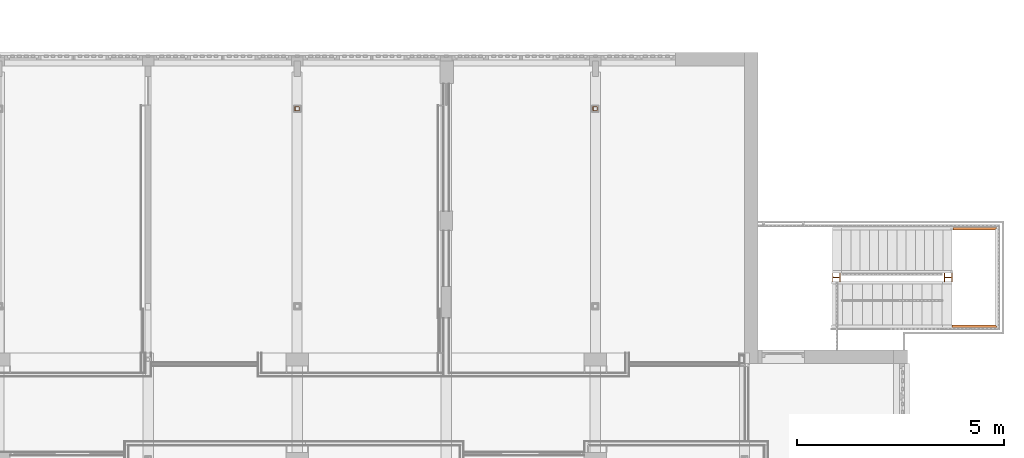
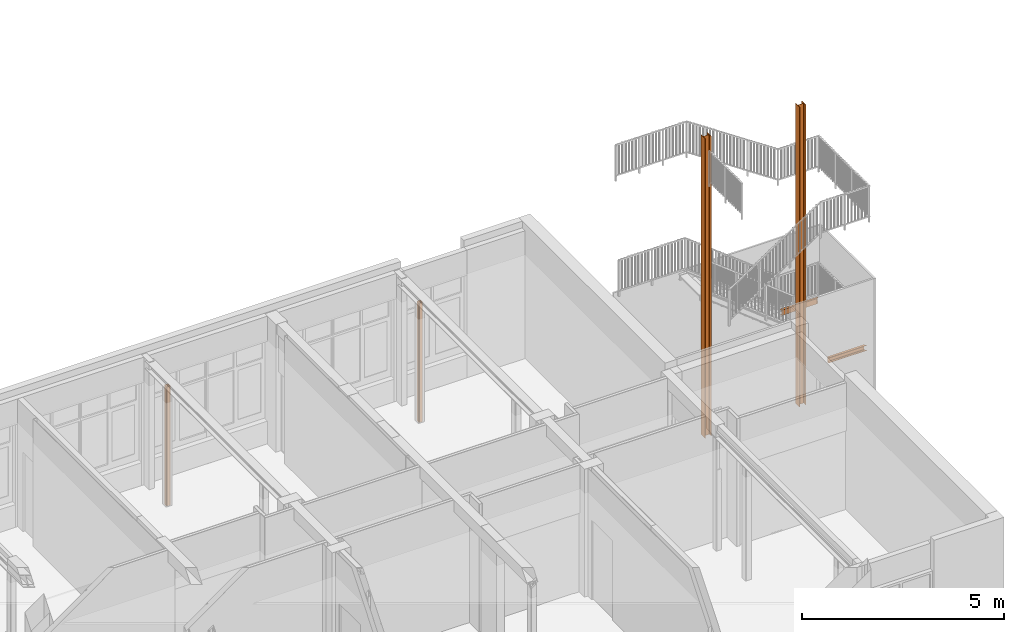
# One storey, part 125 of 135: 6 proxies.
"""IFC2X3 building model written with IfcOpenShell, lengths in millimetres."""

import ifcopenshell
import ifcopenshell.guid

model = None  # the IFC model being written
_history = None  # IfcOwnerHistory: only IFC2X3 demands one
_inside = {}  # id of a spatial element -> (the spatial element, [elements in it])
_under = {}  # id of a project, library or spatial element -> (it, [spatial elements below it])
_declared = {}  # id of a project -> (the project, [libraries it declares])
_typed = {}  # id of a type object -> (the type object, [elements of that type])
_made_of = {}  # id of a material, layer set ... -> (it, [elements and type objects made of it])


def new_model(schema):
    """Start an empty IFC model of exactly this schema.

    Asked for "IFC4X3", IfcOpenShell would pick the latest addendum, in which some entities
    have other attributes; the version numbers below select the first issue.
    IFC2X3 requires an IfcOwnerHistory on every rooted entity: one is made here for all.
    """
    global model, _history
    if schema == "IFC4X3":
        model = ifcopenshell.file(schema_version=(4, 3, 0, 0))
    else:
        model = ifcopenshell.file(schema=schema)
    _inside.clear()
    _under.clear()
    _declared.clear()
    _typed.clear()
    _made_of.clear()
    _history = None
    if model.schema == "IFC2X3":
        org = make("IfcOrganization", Name="unknown")
        user = make(
            "IfcPersonAndOrganization",
            ThePerson=make("IfcPerson", FamilyName="unknown"),
            TheOrganization=org,
        )
        app = make(
            "IfcApplication",
            ApplicationDeveloper=org,
            Version="unknown",
            ApplicationFullName="unknown",
            ApplicationIdentifier="unknown",
        )
        _history = make(
            "IfcOwnerHistory",
            OwningUser=user,
            OwningApplication=app,
            ChangeAction="ADDED",
            CreationDate=0,
        )
    return model


def make(cls, **values):
    """One entity of the class cls with the attributes given. An attribute that is None is left unset."""
    return model.create_entity(
        cls, **{name: value for name, value in values.items() if value is not None}
    )


def entity(cls, *values):
    """Any entity or typed value of the class cls, its attributes in the order of the schema. None: left unset."""
    e = model.create_entity(cls)
    for i, value in enumerate(values):
        if value is not None:
            e[i] = value
    return e


def rooted(cls, **values):
    """An entity with a GlobalId (a new one), such as an element, a storey or a relation."""
    return make(cls, GlobalId=ifcopenshell.guid.new(), OwnerHistory=_history, **values)


def si_unit(unit_type, name, prefix=None):
    """IfcSIUnit, for example si_unit("LENGTHUNIT", "METRE", prefix="MILLI")."""
    return make("IfcSIUnit", UnitType=unit_type, Prefix=prefix, Name=name)


def converted_unit(unit_type, name, factor, base, dimensions=None, offset=None):
    """IfcConversionBasedUnit, such as the inch: factor (a typed value) times the base unit."""
    return make(
        "IfcConversionBasedUnit"
        if offset is None
        else "IfcConversionBasedUnitWithOffset",
        ConversionOffset=offset,
        Dimensions=None
        if dimensions is None
        else entity("IfcDimensionalExponents", *dimensions),
        UnitType=unit_type,
        Name=name,
        ConversionFactor=make(
            "IfcMeasureWithUnit", ValueComponent=factor, UnitComponent=base
        ),
    )


def derived_unit(unit_type, elements):
    """IfcDerivedUnit: a product of units, each with its exponent."""
    return make(
        "IfcDerivedUnit",
        Elements=[
            make("IfcDerivedUnitElement", Unit=unit, Exponent=power)
            for unit, power in elements
        ],
        UnitType=unit_type,
    )


def money_unit(currency):
    """IfcMonetaryUnit."""
    return make("IfcMonetaryUnit", Currency=currency)


def assignment(units):
    """IfcUnitAssignment: the units of a project."""
    return None if units is None else make("IfcUnitAssignment", Units=units)


def point(xyz):
    """IfcCartesianPoint."""
    return None if xyz is None else make("IfcCartesianPoint", Coordinates=xyz)


def direction(xyz):
    """IfcDirection."""
    return None if xyz is None else make("IfcDirection", DirectionRatios=xyz)


def frame(location, z_axis=None, x_axis=None):
    """IfcAxis2Placement3D, a coordinate frame: its origin and axes. An axis left out is left unset."""
    return make(
        "IfcAxis2Placement3D",
        Location=point(location),
        Axis=direction(z_axis),
        RefDirection=direction(x_axis),
    )


def origin_with_axes():
    """The frame at (0, 0, 0) with the z axis (0, 0, 1) and the x axis (1, 0, 0) written out."""
    return frame((0.0, 0.0, 0.0), z_axis=(0.0, 0.0, 1.0), x_axis=(1.0, 0.0, 0.0))


def place(relative_to, where):
    """IfcLocalPlacement: puts the frame where relative to a parent placement (None: the world)."""
    return make(
        "IfcLocalPlacement", PlacementRelTo=relative_to, RelativePlacement=where
    )


def context(
    kind, dimensions, precision=None, world=None, true_north=None, identifier=None
):
    """IfcGeometricRepresentationContext, for example the 3D "Model" context."""
    return make(
        "IfcGeometricRepresentationContext",
        ContextIdentifier=identifier,
        ContextType=kind,
        CoordinateSpaceDimension=dimensions,
        Precision=precision,
        WorldCoordinateSystem=world,
        TrueNorth=true_north,
    )


def subcontext(parent, identifier, kind, view, scale=None):
    """IfcGeometricRepresentationSubContext, for example "Body" below "Model"."""
    return make(
        "IfcGeometricRepresentationSubContext",
        ContextIdentifier=identifier,
        ContextType=kind,
        ParentContext=parent,
        TargetScale=scale,
        TargetView=view,
    )


def project(units=None, contexts=None):
    """IfcProject with its units and contexts."""
    return rooted(
        "IfcProject",
        Name="project",
        RepresentationContexts=contexts,
        UnitsInContext=assignment(units),
    )


def spatial(cls, under=None, at=None, **own):
    """A site, building, storey or space (cls), placed at a placement, below another one or the project."""
    s = rooted(cls, ObjectPlacement=at, **own)
    if under is not None:
        _under.setdefault(under.id(), (under, []))[1].append(s)
    return s


def faces_of(points, faces, orient=None, outer=None):
    """IfcFace entities. A face is a list of loops; a loop is a list of indices into points, from 0.

    orient and outer hold one flag for each loop. By default every Orientation is true, the
    first loop of a face is its IfcFaceOuterBound and the others are IfcFaceBound.
    """
    made = []
    for i, loops in enumerate(faces):
        bounds = []
        for j, loop in enumerate(loops):
            is_outer = j == 0 if outer is None else outer[i][j]
            bounds.append(
                make(
                    "IfcFaceOuterBound" if is_outer else "IfcFaceBound",
                    Bound=make("IfcPolyLoop", Polygon=[points[k] for k in loop]),
                    Orientation=True if orient is None else orient[i][j],
                )
            )
        made.append(make("IfcFace", Bounds=bounds))
    return made


def faceted_brep(points, faces, orient=None, outer=None, voids=None):
    """IfcFacetedBrep: a solid bounded by flat faces; with voids (closed shells), ...WithVoids."""
    shared = [point(p) for p in points]
    hull = make("IfcClosedShell", CfsFaces=faces_of(shared, faces, orient, outer))
    if voids is None:
        return make("IfcFacetedBrep", Outer=hull)
    return make(
        "IfcFacetedBrepWithVoids",
        Outer=hull,
        Voids=[
            make(cls, CfsFaces=faces_of(shared, fs, o, b)) for cls, fs, o, b in voids
        ],
    )


def shape(context_of_items, identifier, shape_type, items):
    """IfcShapeRepresentation: the items that make up one representation, for example the "Body"."""
    return make(
        "IfcShapeRepresentation",
        ContextOfItems=context_of_items,
        RepresentationIdentifier=identifier,
        RepresentationType=shape_type,
        Items=items,
    )


def source(mapping_origin, context_of_items, identifier, shape_type, items):
    """IfcRepresentationMap: a shape defined once, which mapped items show again and again."""
    return make(
        "IfcRepresentationMap",
        MappingOrigin=mapping_origin,
        MappedRepresentation=shape(context_of_items, identifier, shape_type, items),
    )


def transform(
    local_origin,
    x_axis=None,
    y_axis=None,
    z_axis=None,
    scale=None,
    scale2=None,
    scale3=None,
    uniform=True,
):
    """IfcCartesianTransformationOperator3D, or its non-uniform kind. x_axis, y_axis, z_axis: its Axis1, 2, 3."""
    if uniform:
        return make(
            "IfcCartesianTransformationOperator3D",
            Axis1=direction(x_axis),
            Axis2=direction(y_axis),
            LocalOrigin=point(local_origin),
            Scale=scale,
            Axis3=direction(z_axis),
        )
    return make(
        "IfcCartesianTransformationOperator3DnonUniform",
        Axis1=direction(x_axis),
        Axis2=direction(y_axis),
        LocalOrigin=point(local_origin),
        Scale=scale,
        Axis3=direction(z_axis),
        Scale2=scale2,
        Scale3=scale3,
    )


def mapped(mapping_source, mapping_target):
    """IfcMappedItem: shows the shape of a source again, moved by a transform."""
    return make(
        "IfcMappedItem", MappingSource=mapping_source, MappingTarget=mapping_target
    )


def material(Name=None, Category=None):
    """IfcMaterial."""
    return make("IfcMaterial", Name=Name, Category=Category)


def made_of(thing, what):
    """Note that an element or type object is made of a material, layer set ...; save() writes the relation."""
    if what is not None:
        _made_of.setdefault(what.id(), (what, []))[1].append(thing)
    return thing


def type_object(cls, material=None, **own):
    """A type object (cls), such as IfcWallType, which elements share."""
    return made_of(rooted(cls, **own), material)


def type_shapes(of_type, sources):
    """Give a type object the sources (RepresentationMaps) that its elements show as mapped items."""
    of_type.RepresentationMaps = sources


def element(
    cls,
    number,
    at=None,
    inside=None,
    cuts=None,
    type_object=None,
    material=None,
    context=None,
    identifier="Body",
    shape_type=None,
    held_by="IfcProductDefinitionShape",
    body=None,
    shapes=None,
    **own,
):
    """One element of the class cls, such as IfcWall. Its Tag is "e" and its number.

    at: its placement. inside: the storey or other place that contains it. cuts: it is an
    opening in that element (IfcRelVoidsElement). A single representation is given by context,
    identifier, shape_type and body (its items); several are given by shapes. held_by: the class
    of the entity that holds the representations. save() writes the other relations.
    """
    e = rooted(cls, Tag="e%d" % number, ObjectPlacement=at, **own)
    if body is not None:
        shapes = [shape(context, identifier, shape_type, body)]
    if shapes is not None:
        e.Representation = make(held_by, Representations=shapes)
    if inside is not None:
        _inside.setdefault(inside.id(), (inside, []))[1].append(e)
    if cuts is not None:
        rooted(
            "IfcRelVoidsElement", RelatingBuildingElement=cuts, RelatedOpeningElement=e
        )
    if type_object is not None:
        _typed.setdefault(type_object.id(), (type_object, []))[1].append(e)
    return made_of(e, material)


def aggregate(whole, parts):
    """IfcRelAggregates: a whole, such as a stair, and the parts it consists of."""
    return rooted("IfcRelAggregates", RelatingObject=whole, RelatedObjects=parts)


def save(model, path):
    """Write the relations noted so far, then the file.

    IfcRelAggregates (storeys below a building ...), IfcRelContainedInSpatialStructure (elements
    in a storey), IfcRelDefinesByType, IfcRelAssociatesMaterial and IfcRelDeclares: one each for
    every whole, place, type object, material and project.
    """
    for whole, parts in _under.values():
        aggregate(whole, parts)
    for where, things in _inside.values():
        rooted(
            "IfcRelContainedInSpatialStructure",
            RelatedElements=things,
            RelatingStructure=where,
        )
    for kind, things in _typed.values():
        rooted("IfcRelDefinesByType", RelatedObjects=things, RelatingType=kind)
    for what, things in _made_of.values():
        rooted("IfcRelAssociatesMaterial", RelatedObjects=things, RelatingMaterial=what)
    for by, libraries in _declared.values():
        rooted("IfcRelDeclares", RelatingContext=by, RelatedDefinitions=libraries)
    model.write(path)


model = new_model("IFC2X3")

# Units and contexts
model_context = context("Model", 3, precision=0.01, world=origin_with_axes(), true_north=direction((0.0, 1.0)))
body_context = subcontext(model_context, "Body", "Model", "MODEL_VIEW")
ifc_project = project(units=[si_unit("LENGTHUNIT", "METRE", prefix="MILLI"), si_unit("AREAUNIT", "SQUARE_METRE"), si_unit("VOLUMEUNIT", "CUBIC_METRE"), converted_unit("PLANEANGLEUNIT", "DEGREE", entity("IfcPlaneAngleMeasure", 0.0174532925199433), si_unit("PLANEANGLEUNIT", "RADIAN"), dimensions=[0, 0, 0, 0, 0, 0, 0]), money_unit("EUR"), converted_unit("TIMEUNIT", "Year", entity("IfcTimeMeasure", 31557600.0), si_unit("TIMEUNIT", "SECOND"), dimensions=[0, 0, 1, 0, 0, 0, 0]), si_unit("MASSUNIT", "GRAM", prefix="KILO"), si_unit("THERMODYNAMICTEMPERATUREUNIT", "DEGREE_CELSIUS"), si_unit("LUMINOUSINTENSITYUNIT", "LUMEN"), si_unit("ENERGYUNIT", "JOULE", prefix="MEGA"), derived_unit("THERMALCONDUCTANCEUNIT", [(si_unit("POWERUNIT", "WATT"), 1), (si_unit("LENGTHUNIT", "METRE"), -1), (si_unit("THERMODYNAMICTEMPERATUREUNIT", "KELVIN"), -1)]), derived_unit("SPECIFICHEATCAPACITYUNIT", [(si_unit("ENERGYUNIT", "JOULE"), 1), (si_unit("MASSUNIT", "GRAM", prefix="KILO"), -1), (si_unit("THERMODYNAMICTEMPERATUREUNIT", "KELVIN"), -1)]), derived_unit("MASSDENSITYUNIT", [(si_unit("MASSUNIT", "GRAM", prefix="KILO"), 1), (si_unit("VOLUMEUNIT", "CUBIC_METRE"), -1)])], contexts=[model_context])

# Site, building, storey
site_placement = place(None, origin_with_axes())
site = spatial("IfcSite", under=ifc_project, at=site_placement, Name="Site", CompositionType="ELEMENT")
building_placement = place(site_placement, origin_with_axes())
building = spatial("IfcBuilding", under=site, at=building_placement, Name="Naam gebouw", CompositionType="ELEMENT")
storey_placement = place(building_placement, origin_with_axes())
storey = spatial("IfcBuildingStorey", under=building, at=storey_placement, Name="Begane grond N", CompositionType="ELEMENT", Elevation=0.0)

# Proxies
ifc_material = material(Name="Metaal - Staal AFW")
building_element_proxy_type_1 = type_object("IfcBuildingElementProxyType", Name="HEA kolom 26", PredefinedType="NOTDEFINED")
shared_shape_1 = source(origin_with_axes(), body_context, "Body", "Brep", [
    faceted_brep([(100.0, -95.0, 0.0), (100.0, -95.0, 9040.0), (-100.0, -95.0, 9040.0), (-100.0, -95.0, 0.0), (100.0, -85.0, 0.0), (100.0, -85.0, 9040.0), (21.25, -85.0, 9040.0), (12.25, -82.58845726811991, 9040.0), (5.661542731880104, -76.00000000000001, 9040.0), (3.25, -67.0, 9040.0), (3.25, 67.0, 9040.0), (5.661542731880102, 76.00000000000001, 9040.0), (12.25, 82.5884572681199, 9040.0), (21.24999999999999, 84.99999999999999, 9040.0), (100.0, 84.99999999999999, 9040.0), (100.0, 95.0, 9040.0), (-100.0, 95.0, 9040.0), (-100.0, 84.99999999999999, 9040.0), (-21.24999999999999, 84.99999999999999, 9040.0), (-12.25, 82.5884572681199, 9040.0), (-5.661542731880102, 76.00000000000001, 9040.0), (-3.25, 67.0, 9040.0), (-3.25, -67.0, 9040.0), (-5.661542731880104, -76.00000000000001, 9040.0), (-12.25, -82.58845726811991, 9040.0), (-21.25, -85.0, 9040.0), (-100.0, -85.0, 9040.0), (-100.0, -85.0, 0.0), (-21.25, -85.0, 0.0), (-12.25, -82.58845726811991, 0.0), (-5.661542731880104, -76.00000000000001, 0.0), (-3.25, -67.0, 0.0), (-3.25, 67.0, 0.0), (-5.661542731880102, 76.00000000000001, 0.0), (-12.25, 82.5884572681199, 0.0), (-21.24999999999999, 84.99999999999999, 0.0), (-100.0, 84.99999999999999, 0.0), (-100.0, 95.0, 0.0), (100.0, 95.0, 0.0), (100.0, 84.99999999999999, 0.0), (21.24999999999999, 84.99999999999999, 0.0), (12.25, 82.5884572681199, 0.0), (5.661542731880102, 76.00000000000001, 0.0), (3.25, 67.0, 0.0), (3.25, -67.0, 0.0), (5.661542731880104, -76.00000000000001, 0.0), (12.25, -82.58845726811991, 0.0), (21.25, -85.0, 0.0)], [[[0, 1, 2, 3]], [[4, 5, 1, 0]], [[1, 5, 6, 7, 8, 9, 10, 11, 12, 13, 14, 15, 16, 17, 18, 19, 20, 21, 22, 23, 24, 25, 26, 2]], [[3, 2, 26, 27]], [[0, 3, 27, 28, 29, 30, 31, 32, 33, 34, 35, 36, 37, 38, 39, 40, 41, 42, 43, 44, 45, 46, 47, 4]], [[47, 6, 5, 4]], [[46, 7, 6, 47]], [[45, 8, 7, 46]], [[44, 9, 8, 45]], [[43, 10, 9, 44]], [[42, 11, 10, 43]], [[41, 12, 11, 42]], [[40, 13, 12, 41]], [[39, 14, 13, 40]], [[38, 15, 14, 39]], [[37, 16, 15, 38]], [[36, 17, 16, 37]], [[35, 18, 17, 36]], [[34, 19, 18, 35]], [[33, 20, 19, 34]], [[32, 21, 20, 33]], [[31, 22, 21, 32]], [[30, 23, 22, 31]], [[29, 24, 23, 30]], [[28, 25, 24, 29]], [[27, 26, 25, 28]]]),
])
type_shapes(building_element_proxy_type_1, [shared_shape_1])
for number, where, z_axis, x_axis, name in (
    (1, (58914.99999999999, 22405.9124251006, 0.0), (0.0, 0.0, 1.0), (0.0, -1.0, 0.0), "_Boom-x"),
    (2, (56219.65277777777, 22405.9124251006, 0.0), (0.0, 0.0, 1.0), (0.0, -1.0, 0.0), "_Boom-x"),
):
    element("IfcBuildingElementProxy", number, at=place(storey_placement, frame(where, z_axis=z_axis, x_axis=x_axis)), inside=storey, type_object=building_element_proxy_type_1, material=ifc_material, Name=name, context=body_context, shape_type="MappedRepresentation", body=[
        mapped(shared_shape_1, transform((0.0, 0.0, 0.0))),
    ])
building_element_proxy_type_2 = type_object("IfcBuildingElementProxyType", Name="UPN balk 27", PredefinedType="NOTDEFINED")
shared_shape_2 = source(origin_with_axes(), body_context, "Body", "Brep", [
    faceted_brep([(0.0, 0.0, 160.0), (32.49999999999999, -32.5, 160.0), (1067.500000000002, -32.50000000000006, 160.0000000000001), (1067.500000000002, 32.49999999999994, 160.0000000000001), (-32.5, 32.5, 160.0), (0.0, 0.0, 149.5), (14.50000000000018, -14.5, 149.5), (19.75000000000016, -19.75, 148.0932667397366), (23.59326673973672, -23.59326673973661, 144.2500000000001), (24.99999999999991, -25.0, 139.0), (24.99999999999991, -25.0, 21.0), (23.59326673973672, -23.59326673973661, 15.75), (19.75000000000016, -19.75, 11.9067332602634), (14.50000000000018, -14.5, 10.49999999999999), (0.0, 0.0, 10.50000000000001), (-27.00000000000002, 27.00000000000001, 10.49999999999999), (-29.75000000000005, 29.75000000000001, 9.763139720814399), (-31.76313972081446, 31.76313972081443, 7.749999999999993), (-32.5, 32.5, 4.99999999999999), (-32.5, 32.5, 0.0), (0.0, 0.0, 0.0), (32.49999999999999, -32.5, 0.0), (-32.5, 32.5, 155.0), (-31.76313972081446, 31.76313972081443, 152.25), (-29.75000000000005, 29.75000000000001, 150.2368602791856), (-27.00000000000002, 27.00000000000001, 149.5), (1067.500000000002, -32.50000000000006, 0.0), (1067.500000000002, 29.74999999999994, 150.2368602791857), (1067.500000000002, 31.76313972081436, 152.2500000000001), (1067.500000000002, 32.49999999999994, 155.0000000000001), (1067.500000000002, 32.49999999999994, 0.0), (1067.500000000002, 32.49999999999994, 5.00000000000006), (1067.500000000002, 31.76313972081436, 7.750000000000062), (1067.500000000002, 29.74999999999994, 9.763139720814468), (1067.500000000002, 26.99999999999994, 10.50000000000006), (1067.500000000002, -14.50000000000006, 10.50000000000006), (1067.500000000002, -19.75000000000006, 11.90673326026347), (1067.500000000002, -23.59326673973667, 15.75000000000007), (1067.500000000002, -25.00000000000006, 21.00000000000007), (1067.500000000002, -25.00000000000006, 139.0000000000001), (1067.500000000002, -23.59326673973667, 144.2500000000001), (1067.500000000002, -19.75000000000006, 148.0932667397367), (1067.500000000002, -14.50000000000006, 149.5000000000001), (1067.500000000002, 26.99999999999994, 149.5000000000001)], [[[0, 1, 2, 3, 4]], [[5, 6, 7, 8, 9, 10, 11, 12, 13, 14, 15, 16, 17, 18, 19, 20, 21, 1, 0, 4, 22, 23, 24, 25]], [[1, 21, 26, 2]], [[27, 28, 29, 3, 2, 26, 30, 31, 32, 33, 34, 35, 36, 37, 38, 39, 40, 41, 42, 43]], [[4, 3, 29, 22]], [[6, 5, 25, 43, 42]], [[7, 6, 42, 41]], [[8, 7, 41, 40]], [[9, 8, 40, 39]], [[10, 9, 39, 38]], [[11, 10, 38, 37]], [[12, 11, 37, 36]], [[13, 12, 36, 35]], [[14, 13, 35, 34, 15]], [[15, 34, 33, 16]], [[16, 33, 32, 17]], [[17, 32, 31, 18]], [[18, 31, 30, 19]], [[21, 20, 19, 30, 26]], [[22, 29, 28, 23]], [[23, 28, 27, 24]], [[24, 27, 43, 25]]]),
])
proxy_1_placement = place(storey_placement, frame((60077.49999999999, 21228.4124251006, 1927.745891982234), z_axis=(0.0, 0.0, 1.0), x_axis=(-1.0, 0.0, 0.0)))
element("IfcBuildingElementProxy", 3, at=proxy_1_placement, inside=storey, type_object=building_element_proxy_type_2, material=ifc_material, Name="_Boom-x", context=body_context, shape_type="MappedRepresentation", body=[
    mapped(shared_shape_2, transform((0.0, 0.0, 0.0))),
])
shared_shape_3 = source(origin_with_axes(), body_context, "Body", "Brep", [
    faceted_brep([(0.0, 0.0, 160.0), (32.49999999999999, 32.5, 160.0), (-1047.5, 32.49999999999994, 160.0000000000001), (-1047.5, -32.50000000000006, 160.0000000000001), (-32.49999999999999, -32.5, 160.0), (0.0, 0.0, 149.5), (27.00000000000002, 27.00000000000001, 149.5), (29.75000000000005, 29.75000000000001, 150.2368602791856), (31.76313972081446, 31.76313972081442, 152.25), (32.49999999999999, 32.5, 155.0), (-32.49999999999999, -32.5, 0.0), (0.0, 0.0, 0.0), (32.49999999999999, 32.5, 0.0), (32.49999999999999, 32.5, 4.99999999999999), (31.76313972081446, 31.76313972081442, 7.749999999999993), (29.75000000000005, 29.75000000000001, 9.763139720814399), (27.00000000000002, 27.00000000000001, 10.49999999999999), (0.0, 0.0, 10.50000000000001), (-14.50000000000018, -14.5, 10.49999999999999), (-19.75000000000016, -19.75, 11.9067332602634), (-23.59326673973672, -23.59326673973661, 15.75), (-24.99999999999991, -25.0, 21.0), (-24.99999999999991, -25.0, 139.0), (-23.59326673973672, -23.59326673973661, 144.2500000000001), (-19.75000000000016, -19.75, 148.0932667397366), (-14.50000000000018, -14.5, 149.5), (-1047.5, 32.49999999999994, 155.0000000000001), (-1047.5, 29.74999999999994, 150.2368602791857), (-1047.5, 26.99999999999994, 149.5000000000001), (-1047.5, -14.50000000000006, 149.5000000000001), (-1047.5, -19.75000000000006, 148.0932667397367), (-1047.5, -23.59326673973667, 144.2500000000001), (-1047.5, -25.00000000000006, 139.0000000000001), (-1047.5, -25.00000000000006, 21.00000000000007), (-1047.5, -23.59326673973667, 15.75000000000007), (-1047.5, -19.75000000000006, 11.90673326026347), (-1047.5, -14.50000000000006, 10.50000000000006), (-1047.5, 26.99999999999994, 10.50000000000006), (-1047.5, 29.74999999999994, 9.763139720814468), (-1047.5, 31.76313972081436, 7.750000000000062), (-1047.5, 32.49999999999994, 5.00000000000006), (-1047.5, 32.49999999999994, 0.0), (-1047.5, -32.50000000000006, 0.0), (-1047.5, 31.76313972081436, 152.2500000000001)], [[[0, 1, 2, 3, 4]], [[5, 6, 7, 8, 9, 1, 0, 4, 10, 11, 12, 13, 14, 15, 16, 17, 18, 19, 20, 21, 22, 23, 24, 25]], [[1, 9, 26, 2]], [[27, 28, 29, 30, 31, 32, 33, 34, 35, 36, 37, 38, 39, 40, 41, 42, 3, 2, 26, 43]], [[4, 3, 42, 10]], [[25, 29, 28, 6, 5]], [[7, 6, 28, 27]], [[8, 7, 27, 43]], [[9, 8, 43, 26]], [[10, 42, 41, 12, 11]], [[13, 12, 41, 40]], [[14, 13, 40, 39]], [[15, 14, 39, 38]], [[16, 15, 38, 37]], [[17, 16, 37, 36, 18]], [[18, 36, 35, 19]], [[19, 35, 34, 20]], [[20, 34, 33, 21]], [[21, 33, 32, 22]], [[22, 32, 31, 23]], [[23, 31, 30, 24]], [[24, 30, 29, 25]]]),
])
type_shapes(building_element_proxy_type_2, [shared_shape_2, shared_shape_3])
proxy_2_placement = place(storey_placement, frame((60077.49999999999, 23583.4124251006, 1927.745891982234), z_axis=(0.0, 0.0, 1.0), x_axis=(1.0, 0.0, 0.0)))
element("IfcBuildingElementProxy", 4, at=proxy_2_placement, inside=storey, type_object=building_element_proxy_type_2, material=ifc_material, Name="_Boom-x", context=body_context, shape_type="MappedRepresentation", body=[
    mapped(shared_shape_3, transform((0.0, 0.0, 0.0))),
])
building_element_proxy_type_3 = type_object("IfcBuildingElementProxyType", Name="Buis vk warmgew kolom 27", PredefinedType="NOTDEFINED")
shared_shape_4 = source(origin_with_axes(), body_context, "Body", "Brep", [
    faceted_brep([(39.99999999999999, -60.0, 0.0), (39.99999999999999, -60.0, 3589.999999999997), (-39.99999999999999, -60.0, 3589.999999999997), (-39.99999999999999, -60.0, 0.0), (54.14213562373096, -54.14213562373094, 0.0), (54.14213562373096, -54.14213562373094, 3589.999999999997), (60.0, -39.99999999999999, 3589.999999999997), (60.0, 39.99999999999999, 3589.999999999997), (54.14213562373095, 54.14213562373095, 3589.999999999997), (39.99999999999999, 60.0, 3589.999999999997), (-39.99999999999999, 60.0, 3589.999999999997), (-54.14213562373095, 54.14213562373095, 3589.999999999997), (-60.0, 39.99999999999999, 3589.999999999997), (-60.0, -39.99999999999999, 3589.999999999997), (-54.14213562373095, -54.14213562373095, 3589.999999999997), (40.0, -49.99999999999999, 3589.999999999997), (-39.99999999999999, -49.99999999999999, 3589.999999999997), (-47.07106781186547, -47.07106781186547, 3589.999999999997), (-49.99999999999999, -40.0, 3589.999999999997), (-49.99999999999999, 39.99999999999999, 3589.999999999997), (-47.07106781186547, 47.07106781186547, 3589.999999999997), (-40.0, 49.99999999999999, 3589.999999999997), (39.99999999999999, 49.99999999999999, 3589.999999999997), (47.07106781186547, 47.07106781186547, 3589.999999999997), (49.99999999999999, 40.0, 3589.999999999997), (49.99999999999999, -39.99999999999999, 3589.999999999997), (47.07106781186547, -47.07106781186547, 3589.999999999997), (-54.14213562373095, -54.14213562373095, 0.0), (-60.0, -39.99999999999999, 0.0), (-60.0, 39.99999999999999, 0.0), (-54.14213562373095, 54.14213562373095, 0.0), (-39.99999999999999, 60.0, 0.0), (39.99999999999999, 60.0, 0.0), (54.14213562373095, 54.14213562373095, 0.0), (60.0, 39.99999999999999, 0.0), (60.0, -39.99999999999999, 0.0), (40.0, -49.99999999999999, 0.0), (47.07106781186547, -47.07106781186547, 0.0), (49.99999999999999, -39.99999999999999, 0.0), (49.99999999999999, 40.0, 0.0), (47.07106781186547, 47.07106781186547, 0.0), (39.99999999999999, 49.99999999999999, 0.0), (-40.0, 49.99999999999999, 0.0), (-47.07106781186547, 47.07106781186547, 0.0), (-49.99999999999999, 39.99999999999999, 0.0), (-49.99999999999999, -40.0, 0.0), (-47.07106781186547, -47.07106781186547, 0.0), (-39.99999999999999, -49.99999999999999, 0.0)], [[[0, 1, 2, 3]], [[4, 5, 1, 0]], [[1, 5, 6, 7, 8, 9, 10, 11, 12, 13, 14, 2], [15, 16, 17, 18, 19, 20, 21, 22, 23, 24, 25, 26]], [[3, 2, 14, 27]], [[0, 3, 27, 28, 29, 30, 31, 32, 33, 34, 35, 4], [36, 37, 38, 39, 40, 41, 42, 43, 44, 45, 46, 47]], [[35, 6, 5, 4]], [[34, 7, 6, 35]], [[33, 8, 7, 34]], [[32, 9, 8, 33]], [[31, 10, 9, 32]], [[30, 11, 10, 31]], [[29, 12, 11, 30]], [[28, 13, 12, 29]], [[27, 14, 13, 28]], [[47, 16, 15, 36]], [[46, 17, 16, 47]], [[45, 18, 17, 46]], [[44, 19, 18, 45]], [[43, 20, 19, 44]], [[42, 21, 20, 43]], [[41, 22, 21, 42]], [[40, 23, 22, 41]], [[39, 24, 23, 40]], [[38, 25, 24, 39]], [[37, 26, 25, 38]], [[36, 15, 26, 37]]]),
])
type_shapes(building_element_proxy_type_3, [shared_shape_4])
for number, where, z_axis, x_axis, name in (
    (5, (43199.99999999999, 26480.91242510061, 0.0), (0.0, 0.0, 1.0), (0.0, -1.0, 0.0), "_Boom-x"),
    (6, (50399.99999999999, 26480.91242510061, 0.0), (0.0, 0.0, 1.0), (0.0, -1.0, 0.0), "_Boom-x"),
):
    element("IfcBuildingElementProxy", number, at=place(storey_placement, frame(where, z_axis=z_axis, x_axis=x_axis)), inside=storey, type_object=building_element_proxy_type_3, material=ifc_material, Name=name, context=body_context, shape_type="MappedRepresentation", body=[
        mapped(shared_shape_4, transform((0.0, 0.0, 0.0))),
    ])

save(model, "model.ifc")
